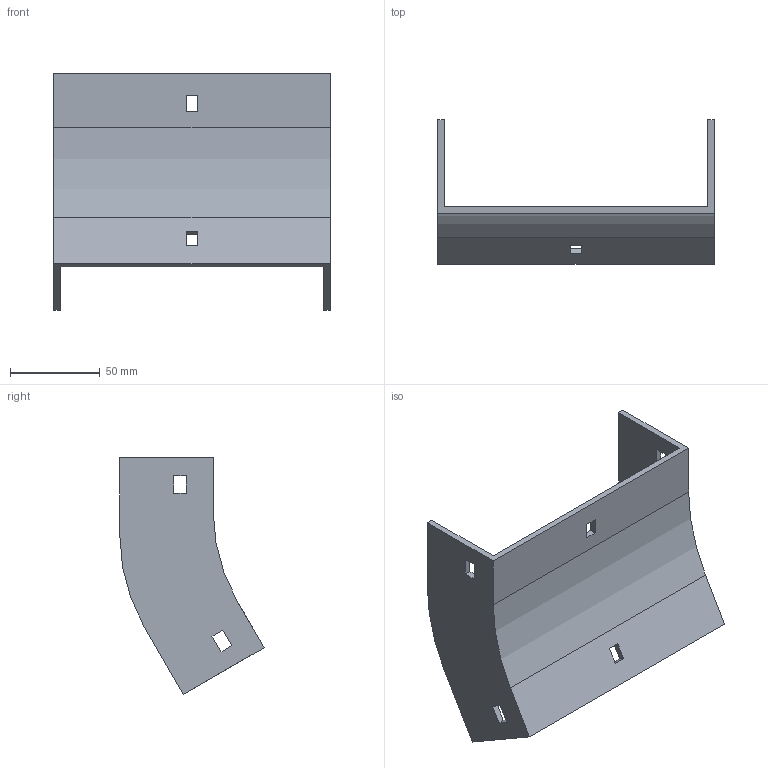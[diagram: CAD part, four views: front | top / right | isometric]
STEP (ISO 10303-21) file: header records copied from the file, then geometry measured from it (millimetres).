
FILE_DESCRIPTION (( 'STEP AP214' ), '1' );
FILE_NAME ('35F1B150.step', '2025-02-21T12:49:23', ( '' ), ( '' ), 'SwSTEP 2.0', 'SolidWorks 2023', '' );
FILE_SCHEMA (( 'AUTOMOTIVE_DESIGN' ));
Length unit declared in the file: millimetre
Products named in the file (1): 35F1B150
Bounding box: 154 x 80.4 x 131.98 mm (x, y, z)
Volume: 103309.5 mm3; surface area: 62459.2 mm2
Topology: 1 solids, 1 shells, 42 faces, 120 edges, 80 vertices
Faces by surface type: plane 38, cylinder 4
Entity records: 1399 total; most frequent: CARTESIAN_POINT 243, ORIENTED_EDGE 240, DIRECTION 214, EDGE_CURVE 120, LINE 112, VECTOR 112, VERTEX_POINT 80, EDGE_LOOP 54
